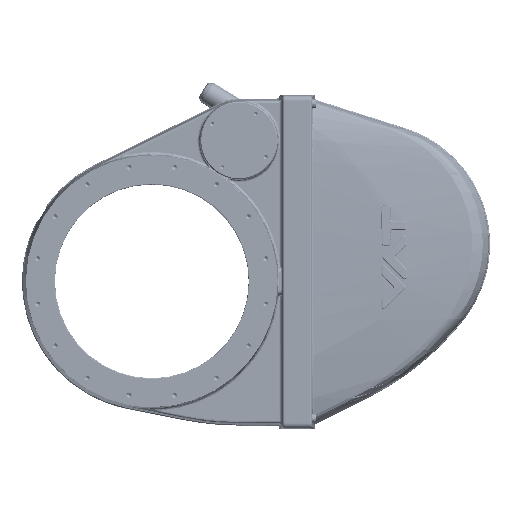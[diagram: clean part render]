
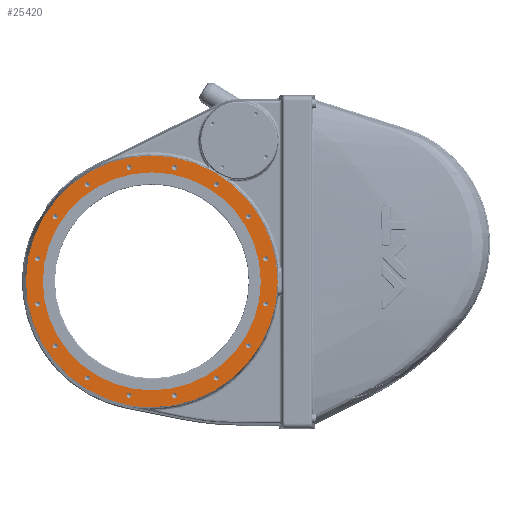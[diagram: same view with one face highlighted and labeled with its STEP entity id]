
A CAD part, top view. The second image highlights one B-rep face of the part: STEP entity #25420.
In plain terms, the highlighted planar face has unit normal (0, 0, 1).
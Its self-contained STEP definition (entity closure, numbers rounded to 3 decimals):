
#25420=ADVANCED_FACE('',(#28925,#28926,#28927,#28928,#28929,#28930,#28931,
#28932,#28933,#28934,#28935,#28936,#28937,#28938,#28939,#28940,#28941,#28942),
#27003,.F.);
#27003=PLANE('',#73394);
#28925=FACE_BOUND('',#33973,.T.);
#28926=FACE_BOUND('',#33974,.T.);
#28927=FACE_BOUND('',#33975,.T.);
#28928=FACE_BOUND('',#33976,.T.);
#28929=FACE_BOUND('',#33977,.T.);
#28930=FACE_BOUND('',#33978,.T.);
#28931=FACE_BOUND('',#33979,.T.);
#28932=FACE_BOUND('',#33980,.T.);
#28933=FACE_BOUND('',#33981,.T.);
#28934=FACE_BOUND('',#33982,.T.);
#28935=FACE_BOUND('',#33983,.T.);
#28936=FACE_BOUND('',#33984,.T.);
#28937=FACE_BOUND('',#33985,.T.);
#28938=FACE_BOUND('',#33986,.T.);
#28939=FACE_BOUND('',#33987,.T.);
#28940=FACE_BOUND('',#33988,.T.);
#28941=FACE_BOUND('',#33989,.T.);
#28942=FACE_BOUND('',#33990,.T.);
#33973=EDGE_LOOP('',(#50544));
#33974=EDGE_LOOP('',(#50545));
#33975=EDGE_LOOP('',(#50546));
#33976=EDGE_LOOP('',(#50547));
#33977=EDGE_LOOP('',(#50548));
#33978=EDGE_LOOP('',(#50549));
#33979=EDGE_LOOP('',(#50550));
#33980=EDGE_LOOP('',(#50551));
#33981=EDGE_LOOP('',(#50552));
#33982=EDGE_LOOP('',(#50553));
#33983=EDGE_LOOP('',(#50554));
#33984=EDGE_LOOP('',(#50555));
#33985=EDGE_LOOP('',(#50556));
#33986=EDGE_LOOP('',(#50557));
#33987=EDGE_LOOP('',(#50558));
#33988=EDGE_LOOP('',(#50559));
#33989=EDGE_LOOP('',(#50560));
#33990=EDGE_LOOP('',(#50561));
#50544=ORIENTED_EDGE('',*,*,#64740,.T.);
#50545=ORIENTED_EDGE('',*,*,#64741,.T.);
#50546=ORIENTED_EDGE('',*,*,#64742,.T.);
#50547=ORIENTED_EDGE('',*,*,#64743,.T.);
#50548=ORIENTED_EDGE('',*,*,#64744,.T.);
#50549=ORIENTED_EDGE('',*,*,#64745,.T.);
#50550=ORIENTED_EDGE('',*,*,#64746,.T.);
#50551=ORIENTED_EDGE('',*,*,#64747,.T.);
#50552=ORIENTED_EDGE('',*,*,#64748,.T.);
#50553=ORIENTED_EDGE('',*,*,#64749,.T.);
#50554=ORIENTED_EDGE('',*,*,#64750,.T.);
#50555=ORIENTED_EDGE('',*,*,#64751,.T.);
#50556=ORIENTED_EDGE('',*,*,#64752,.T.);
#50557=ORIENTED_EDGE('',*,*,#64753,.T.);
#50558=ORIENTED_EDGE('',*,*,#64754,.T.);
#50559=ORIENTED_EDGE('',*,*,#64755,.T.);
#50560=ORIENTED_EDGE('',*,*,#64097,.F.);
#50561=ORIENTED_EDGE('',*,*,#64286,.F.);
#56008=VERTEX_POINT('',#150961);
#56147=VERTEX_POINT('',#152859);
#56381=VERTEX_POINT('',#161274);
#56382=VERTEX_POINT('',#161276);
#56383=VERTEX_POINT('',#161278);
#56384=VERTEX_POINT('',#161280);
#56385=VERTEX_POINT('',#161282);
#56386=VERTEX_POINT('',#161284);
#56387=VERTEX_POINT('',#161286);
#56388=VERTEX_POINT('',#161288);
#56389=VERTEX_POINT('',#161290);
#56390=VERTEX_POINT('',#161292);
#56391=VERTEX_POINT('',#161294);
#56392=VERTEX_POINT('',#161296);
#56393=VERTEX_POINT('',#161298);
#56394=VERTEX_POINT('',#161300);
#56395=VERTEX_POINT('',#161302);
#56396=VERTEX_POINT('',#161304);
#64097=EDGE_CURVE('',#56008,#56008,#67473,.T.);
#64286=EDGE_CURVE('',#56147,#56147,#67541,.T.);
#64740=EDGE_CURVE('',#56381,#56381,#67690,.T.);
#64741=EDGE_CURVE('',#56382,#56382,#67691,.T.);
#64742=EDGE_CURVE('',#56383,#56383,#67692,.T.);
#64743=EDGE_CURVE('',#56384,#56384,#67693,.T.);
#64744=EDGE_CURVE('',#56385,#56385,#67694,.T.);
#64745=EDGE_CURVE('',#56386,#56386,#67695,.T.);
#64746=EDGE_CURVE('',#56387,#56387,#67696,.T.);
#64747=EDGE_CURVE('',#56388,#56388,#67697,.T.);
#64748=EDGE_CURVE('',#56389,#56389,#67698,.T.);
#64749=EDGE_CURVE('',#56390,#56390,#67699,.T.);
#64750=EDGE_CURVE('',#56391,#56391,#67700,.T.);
#64751=EDGE_CURVE('',#56392,#56392,#67701,.T.);
#64752=EDGE_CURVE('',#56393,#56393,#67702,.T.);
#64753=EDGE_CURVE('',#56394,#56394,#67703,.T.);
#64754=EDGE_CURVE('',#56395,#56395,#67704,.T.);
#64755=EDGE_CURVE('',#56396,#56396,#67705,.T.);
#67473=CIRCLE('',#73022,225.);
#67541=CIRCLE('',#73121,259.906);
#67690=CIRCLE('',#73378,5.15);
#67691=CIRCLE('',#73379,5.15);
#67692=CIRCLE('',#73380,5.15);
#67693=CIRCLE('',#73381,5.15);
#67694=CIRCLE('',#73382,5.15);
#67695=CIRCLE('',#73383,5.15);
#67696=CIRCLE('',#73384,5.15);
#67697=CIRCLE('',#73385,5.15);
#67698=CIRCLE('',#73386,5.15);
#67699=CIRCLE('',#73387,5.15);
#67700=CIRCLE('',#73388,5.15);
#67701=CIRCLE('',#73389,5.15);
#67702=CIRCLE('',#73390,5.15);
#67703=CIRCLE('',#73391,5.15);
#67704=CIRCLE('',#73392,5.15);
#67705=CIRCLE('',#73393,5.15);
#73022=AXIS2_PLACEMENT_3D('',#150960,#87380,#87381);
#73121=AXIS2_PLACEMENT_3D('',#152858,#87623,#87624);
#73378=AXIS2_PLACEMENT_3D('',#161273,#88236,#88237);
#73379=AXIS2_PLACEMENT_3D('',#161275,#88238,#88239);
#73380=AXIS2_PLACEMENT_3D('',#161277,#88240,#88241);
#73381=AXIS2_PLACEMENT_3D('',#161279,#88242,#88243);
#73382=AXIS2_PLACEMENT_3D('',#161281,#88244,#88245);
#73383=AXIS2_PLACEMENT_3D('',#161283,#88246,#88247);
#73384=AXIS2_PLACEMENT_3D('',#161285,#88248,#88249);
#73385=AXIS2_PLACEMENT_3D('',#161287,#88250,#88251);
#73386=AXIS2_PLACEMENT_3D('',#161289,#88252,#88253);
#73387=AXIS2_PLACEMENT_3D('',#161291,#88254,#88255);
#73388=AXIS2_PLACEMENT_3D('',#161293,#88256,#88257);
#73389=AXIS2_PLACEMENT_3D('',#161295,#88258,#88259);
#73390=AXIS2_PLACEMENT_3D('',#161297,#88260,#88261);
#73391=AXIS2_PLACEMENT_3D('',#161299,#88262,#88263);
#73392=AXIS2_PLACEMENT_3D('',#161301,#88264,#88265);
#73393=AXIS2_PLACEMENT_3D('',#161303,#88266,#88267);
#73394=AXIS2_PLACEMENT_3D('',#161305,#88268,#88269);
#87380=DIRECTION('',(0.,0.,1.));
#87381=DIRECTION('',(0.,1.,0.));
#87623=DIRECTION('',(0.,0.,-1.));
#87624=DIRECTION('',(0.,-1.,0.));
#88236=DIRECTION('',(0.,0.,-1.));
#88237=DIRECTION('',(0.383,0.924,0.));
#88238=DIRECTION('',(0.,0.,-1.));
#88239=DIRECTION('',(0.707,0.707,0.));
#88240=DIRECTION('',(0.,0.,-1.));
#88241=DIRECTION('',(0.924,0.383,0.));
#88242=DIRECTION('',(0.,0.,-1.));
#88243=DIRECTION('',(1.,0.,0.));
#88244=DIRECTION('',(0.,0.,-1.));
#88245=DIRECTION('',(0.924,-0.383,0.));
#88246=DIRECTION('',(0.,0.,-1.));
#88247=DIRECTION('',(0.707,-0.707,0.));
#88248=DIRECTION('',(0.,0.,-1.));
#88249=DIRECTION('',(0.383,-0.924,0.));
#88250=DIRECTION('',(0.,0.,-1.));
#88251=DIRECTION('',(0.,-1.,0.));
#88252=DIRECTION('',(0.,0.,-1.));
#88253=DIRECTION('',(-0.383,-0.924,0.));
#88254=DIRECTION('',(0.,0.,-1.));
#88255=DIRECTION('',(-0.707,-0.707,0.));
#88256=DIRECTION('',(0.,0.,-1.));
#88257=DIRECTION('',(-0.924,-0.383,0.));
#88258=DIRECTION('',(0.,0.,-1.));
#88259=DIRECTION('',(-1.,0.,0.));
#88260=DIRECTION('',(0.,0.,-1.));
#88261=DIRECTION('',(-0.924,0.383,0.));
#88262=DIRECTION('',(0.,0.,-1.));
#88263=DIRECTION('',(-0.707,0.707,0.));
#88264=DIRECTION('',(0.,0.,-1.));
#88265=DIRECTION('',(-0.383,0.924,0.));
#88266=DIRECTION('',(0.,0.,-1.));
#88267=DIRECTION('',(0.,1.,0.));
#88268=DIRECTION('',(0.,0.,-1.));
#88269=DIRECTION('',(0.,1.,0.));
#150960=CARTESIAN_POINT('',(0.,0.,
75.));
#150961=CARTESIAN_POINT('',(0.,225.,75.));
#152858=CARTESIAN_POINT('',(0.,0.,75.));
#152859=CARTESIAN_POINT('',(0.,-259.906,75.));
#161273=CARTESIAN_POINT('',(-235.388,46.822,75.));
#161274=CARTESIAN_POINT('',(-233.418,51.58,75.));
#161275=CARTESIAN_POINT('',(-199.553,133.337,75.));
#161276=CARTESIAN_POINT('',(-195.911,136.978,75.));
#161277=CARTESIAN_POINT('',(-133.337,199.553,75.));
#161278=CARTESIAN_POINT('',(-128.579,201.524,75.));
#161279=CARTESIAN_POINT('',(-46.822,235.388,75.));
#161280=CARTESIAN_POINT('',(-41.672,235.388,75.));
#161281=CARTESIAN_POINT('',(46.822,235.388,75.));
#161282=CARTESIAN_POINT('',(51.58,233.418,75.));
#161283=CARTESIAN_POINT('',(133.337,199.553,75.));
#161284=CARTESIAN_POINT('',(136.978,195.911,75.));
#161285=CARTESIAN_POINT('',(199.553,133.337,75.));
#161286=CARTESIAN_POINT('',(201.524,128.579,75.));
#161287=CARTESIAN_POINT('',(235.388,46.822,75.));
#161288=CARTESIAN_POINT('',(235.388,41.672,75.));
#161289=CARTESIAN_POINT('',(235.388,-46.822,75.));
#161290=CARTESIAN_POINT('',(233.418,-51.58,75.));
#161291=CARTESIAN_POINT('',(199.553,-133.337,75.));
#161292=CARTESIAN_POINT('',(195.911,-136.978,75.));
#161293=CARTESIAN_POINT('',(133.337,-199.553,75.));
#161294=CARTESIAN_POINT('',(128.579,-201.524,75.));
#161295=CARTESIAN_POINT('',(46.822,-235.388,75.));
#161296=CARTESIAN_POINT('',(41.672,-235.388,75.));
#161297=CARTESIAN_POINT('',(-46.822,-235.388,75.));
#161298=CARTESIAN_POINT('',(-51.58,-233.418,75.));
#161299=CARTESIAN_POINT('',(-133.337,-199.553,75.));
#161300=CARTESIAN_POINT('',(-136.978,-195.911,75.));
#161301=CARTESIAN_POINT('',(-199.553,-133.337,75.));
#161302=CARTESIAN_POINT('',(-201.524,-128.579,75.));
#161303=CARTESIAN_POINT('',(-235.388,-46.822,75.));
#161304=CARTESIAN_POINT('',(-235.388,-41.672,75.));
#161305=CARTESIAN_POINT('',(0.,280.,75.));
